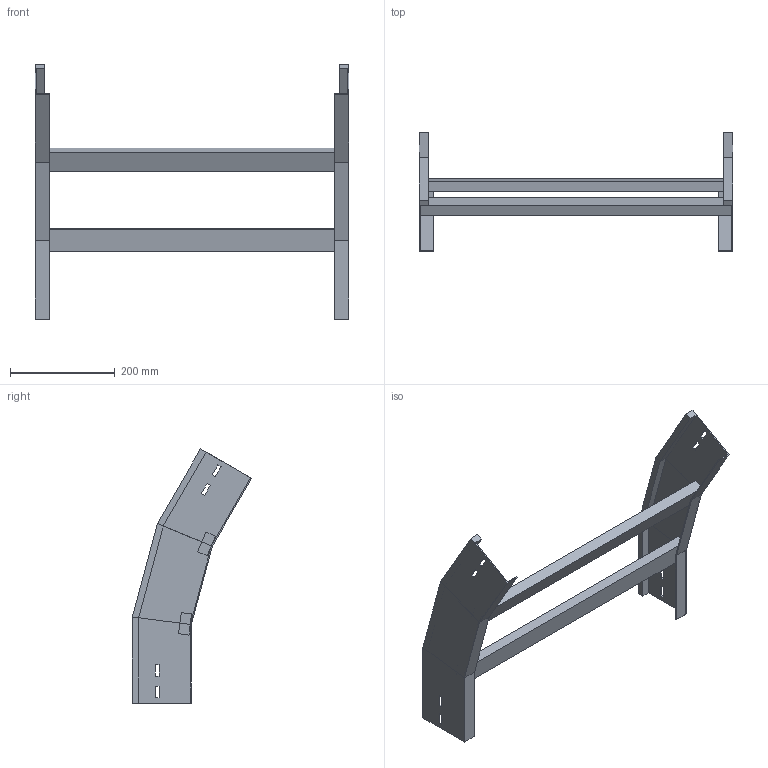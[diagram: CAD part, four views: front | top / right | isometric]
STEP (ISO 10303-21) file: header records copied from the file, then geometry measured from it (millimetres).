
FILE_DESCRIPTION (( 'STEP AP214' ), '1' );
FILE_NAME ('A2_35B3J600.step', '2025-02-21T14:48:05', ( '' ), ( '' ), 'SwSTEP 2.0', 'SolidWorks 2023', '' );
FILE_SCHEMA (( 'AUTOMOTIVE_DESIGN' ));
Length unit declared in the file: millimetre
Products named in the file (3): A2_35B3J600; TRAVERSINO_600; LONGH.DISCESA_30°_H112.5_R300
Assembly tree (5 placements, depth 2):
  A2_35B3J600
    LONGH.DISCESA_30°_H112.5_R300  x2
    TRAVERSINO_600  x3
Bounding box: 600 x 227.62 x 485.87 mm (x, y, z)
Volume: 1905704.7 mm3; surface area: 521758.8 mm2
Topology: 5 solids, 5 shells, 102 faces, 244 edges, 152 vertices
Faces by surface type: plane 102
Entity records: 1480 total; most frequent: CARTESIAN_POINT 244, ORIENTED_EDGE 232, DIRECTION 228, EDGE_CURVE 116, LINE 116, VECTOR 116, VERTEX_POINT 72, AXIS2_PLACEMENT_3D 56
